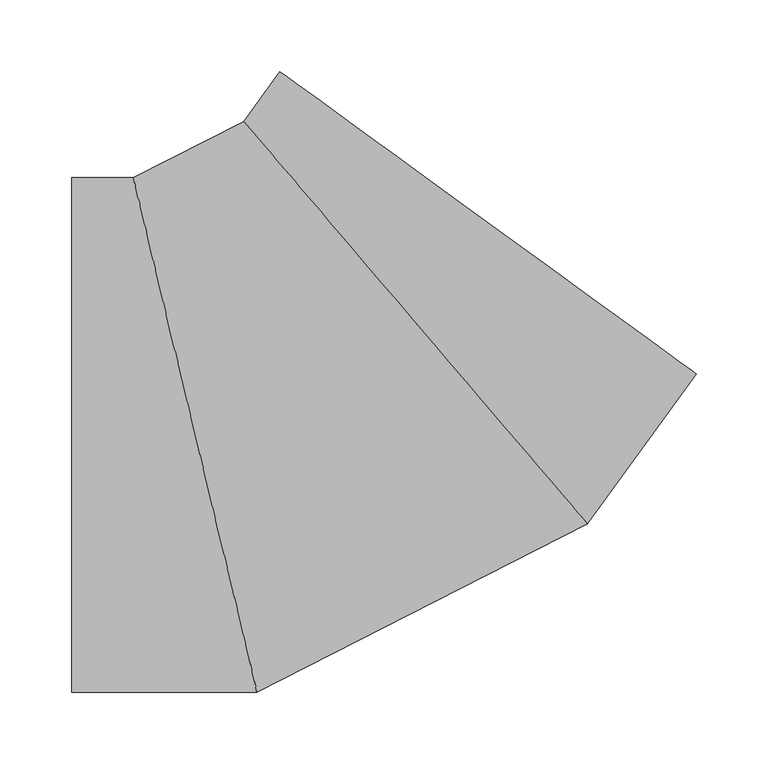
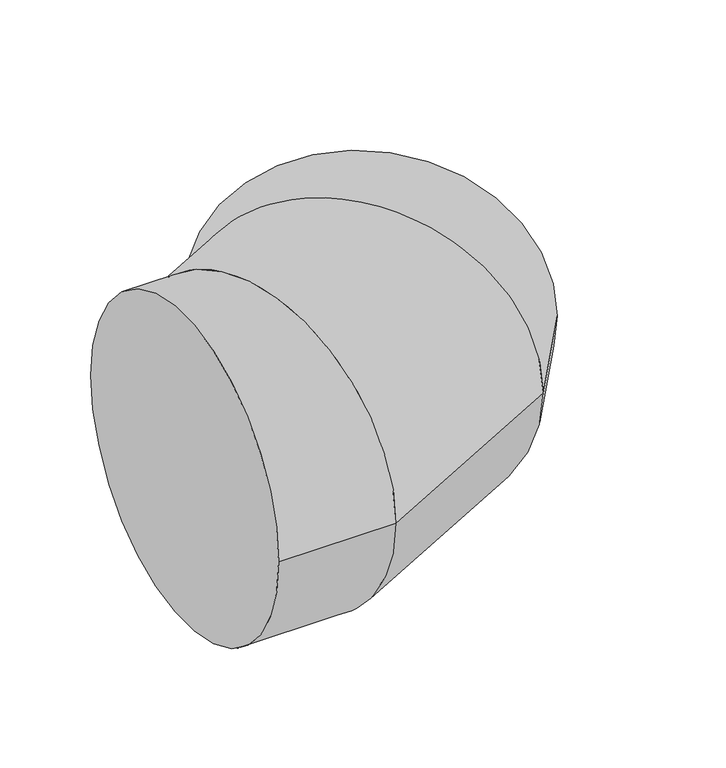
"""IFC4 building model written with IfcOpenShell, lengths in millimetres: duct fitting geometry, 17_Отвод_Заключение : 10_Отвод_3D объект."""

from ifc_helpers import new_model, si_unit, frame, origin, place, context, project, spatial, circle_curve, ellipse_curve, source, transform, mapped, element, save
from ifc_brep_helpers import plane_surface, cylinder_surface, advanced_brep


def duct_fitting_0524fbbe(model_context):
    return source(origin(), model_context, "Body", "AdvancedBrep", [
        advanced_brep(
        [(-183.4291618, -180.0, 0.0), (-183.4291618, 180.0, 0.0), (-53.7866319, -180.0, 0.0), (-140.2149852, 180.0, 0.0), (177.238048, -62.2870461, 0.0), (-63.2067585, 219.2376513, 0.0), (253.4400151, 42.5959638, 0.0), (-37.8061028, 254.1986546, 0.0)],
        [
            (0, 1, circle_curve(frame((-183.4291618, 0.0, 0.0), z_axis=(-1.0, 0.0, 0.0), x_axis=(0.0, 1.0, 0.0)), 180.0)),
            (1, 0, circle_curve(frame((-183.4291618, 0.0, 0.0), z_axis=(-1.0, 0.0, 0.0), x_axis=(0.0, 1.0, 0.0)), 180.0)),
            (0, 2),
            (2, 3, ellipse_curve(frame((-97.0008085, 0.0, 0.0), z_axis=(-0.9723699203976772, -0.2334453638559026, 0.0), x_axis=(-0.23344536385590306, 0.9723699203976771, 0.0)), 185.1147349, 180.0)),
            (3, 1),
            (3, 2, ellipse_curve(frame((-97.0008085, 0.0, 0.0), z_axis=(-0.9723699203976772, -0.2334453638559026, 0.0), x_axis=(-0.23344536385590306, 0.9723699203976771, 0.0)), 185.1147349, 180.0)),
            (2, 4),
            (4, 5, ellipse_curve(frame((57.0156447, 78.4753026, 0.0), z_axis=(-0.7604059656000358, -0.6494480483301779, 0.0), x_axis=(-0.6494480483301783, 0.7604059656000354, 0.0)), 185.1147349, 180.0)),
            (5, 3),
            (5, 4, ellipse_curve(frame((57.0156447, 78.4753026, 0.0), z_axis=(-0.7604059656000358, -0.6494480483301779, 0.0), x_axis=(-0.6494480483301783, 0.7604059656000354, 0.0)), 185.1147349, 180.0)),
            (4, 6),
            (6, 7, circle_curve(frame((107.8169562, 148.3973092, 0.0), z_axis=(-0.587785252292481, -0.8090169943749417, 0.0), x_axis=(-0.8090169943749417, 0.587785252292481, 0.0)), 180.0)),
            (7, 5),
            (7, 6, circle_curve(frame((107.8169562, 148.3973092, 0.0), z_axis=(-0.587785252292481, -0.8090169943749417, 0.0), x_axis=(-0.8090169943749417, 0.587785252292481, 0.0)), 180.0)),
        ],
        [
            plane_surface(frame((-183.4291618, 0.0, 0.0), z_axis=(-1.0, 0.0, 0.0), x_axis=(0.0, 0.0, 1.0))),
            cylinder_surface(frame((-183.4291618, 0.0, 0.0), z_axis=(-1.0, 0.0, 0.0), x_axis=(0.0, 1.0, 0.0)), 180.0),
            cylinder_surface(frame((-97.0008085, 0.0, 0.0), z_axis=(-0.8910065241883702, -0.45399049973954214, 0.0), x_axis=(-0.45399049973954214, 0.8910065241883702, 0.0)), 180.0),
            cylinder_surface(frame((57.0156447, 78.4753026, 0.0), z_axis=(-0.587785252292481, -0.8090169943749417, 0.0), x_axis=(-0.8090169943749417, 0.587785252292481, 0.0)), 180.0),
            plane_surface(frame((107.8169562, 148.3973092, 0.0), z_axis=(0.5877852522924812, 0.8090169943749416, 0.0), x_axis=(0.0, 0.0, 1.0))),
        ],
        [
            (0, [[1, 2]]),
            (1, [[-1, 3, 4, 5]]),
            (1, [[-2, -5, 6, -3]]),
            (2, [[-4, 7, 8, 9]]),
            (2, [[-6, -9, 10, -7]]),
            (3, [[-8, 11, 12, 13]]),
            (3, [[-10, -13, 14, -11]]),
            (4, [[-14, -12]]),
        ],
    ),
    ])


if __name__ == "__main__":
    model = new_model("IFC4")
    model_context = context("Model", 3, world=origin())
    ifc_project = project(units=[si_unit("LENGTHUNIT", "METRE", prefix="MILLI")], contexts=[model_context])
    site = spatial("IfcSite", under=ifc_project)
    building = spatial("IfcBuilding", under=site)
    placement = place(None, origin())
    duct_fitting_shape = duct_fitting_0524fbbe(model_context)
    element("IfcDuctFitting", 1, ObjectType="17_Отвод_Заключение : 10_Отвод_3D объект", at=placement, inside=building, context=model_context, shape_type="MappedRepresentation", body=[
        mapped(duct_fitting_shape, transform((0.0, 0.0, 0.0), x_axis=(1.0, 0.0, 0.0), y_axis=(0.0, 1.0, 0.0), z_axis=(0.0, 0.0, 1.0))),
    ])
    save(model, "model.ifc")
